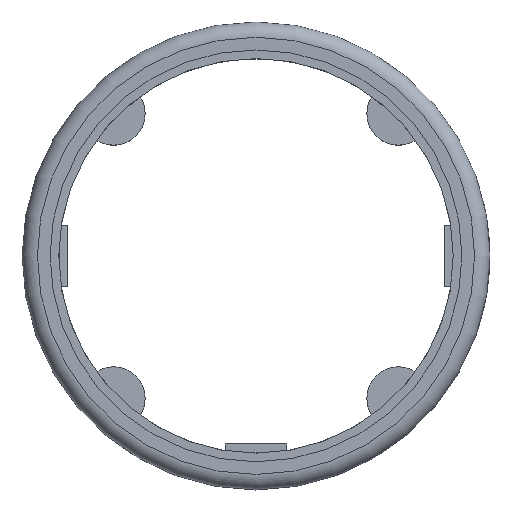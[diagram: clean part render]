
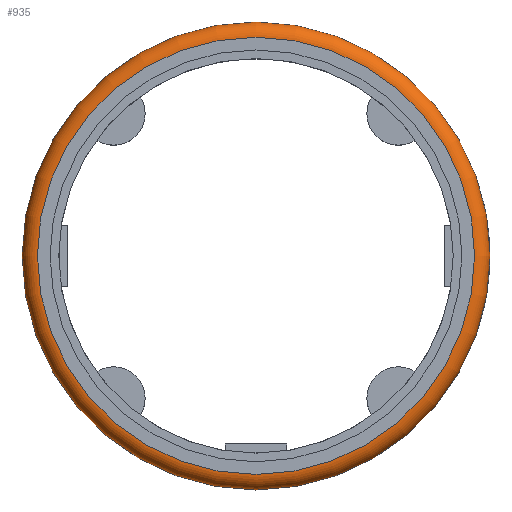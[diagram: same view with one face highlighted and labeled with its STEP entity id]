
A CAD part, top view. The second image highlights one B-rep face of the part: STEP entity #935.
In plain terms, the highlighted toroidal (fillet/blend) face has major radius 21.5 mm and minor radius 1.5 mm.
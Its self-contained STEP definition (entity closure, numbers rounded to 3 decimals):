
#31 = CYLINDRICAL_SURFACE('',#32,23.);
#32 = AXIS2_PLACEMENT_3D('',#33,#34,#35);
#33 = CARTESIAN_POINT('',(0.,0.,1.8));
#34 = DIRECTION('',(-0.,-0.,-1.));
#35 = DIRECTION('',(1.,0.,0.));
#167 = VERTEX_POINT('',#168);
#168 = CARTESIAN_POINT('',(23.,0.,17.7));
#189 = EDGE_CURVE('',#167,#167,#190,.T.);
#190 = SURFACE_CURVE('',#191,(#196,#203),.PCURVE_S1.);
#191 = CIRCLE('',#192,23.);
#192 = AXIS2_PLACEMENT_3D('',#193,#194,#195);
#193 = CARTESIAN_POINT('',(0.,0.,17.7));
#194 = DIRECTION('',(0.,0.,1.));
#195 = DIRECTION('',(1.,0.,-0.));
#196 = PCURVE('',#31,#197);
#197 = DEFINITIONAL_REPRESENTATION('',(#198),#202);
#198 = LINE('',#199,#200);
#199 = CARTESIAN_POINT('',(-0.,-15.9));
#200 = VECTOR('',#201,1.);
#201 = DIRECTION('',(-1.,0.));
#202 = ( GEOMETRIC_REPRESENTATION_CONTEXT(2) 
PARAMETRIC_REPRESENTATION_CONTEXT() REPRESENTATION_CONTEXT('2D SPACE',''
  ) );
#203 = PCURVE('',#204,#209);
#204 = TOROIDAL_SURFACE('',#205,21.5,1.5);
#205 = AXIS2_PLACEMENT_3D('',#206,#207,#208);
#206 = CARTESIAN_POINT('',(0.,0.,17.7));
#207 = DIRECTION('',(0.,0.,1.));
#208 = DIRECTION('',(1.,0.,-0.));
#209 = DEFINITIONAL_REPRESENTATION('',(#210),#214);
#210 = LINE('',#211,#212);
#211 = CARTESIAN_POINT('',(0.,0.));
#212 = VECTOR('',#213,1.);
#213 = DIRECTION('',(1.,0.));
#214 = ( GEOMETRIC_REPRESENTATION_CONTEXT(2) 
PARAMETRIC_REPRESENTATION_CONTEXT() REPRESENTATION_CONTEXT('2D SPACE',''
  ) );
#935 = ADVANCED_FACE('',(#936),#204,.T.);
#936 = FACE_BOUND('',#937,.T.);
#937 = EDGE_LOOP('',(#938,#960,#961,#962));
#938 = ORIENTED_EDGE('',*,*,#939,.F.);
#939 = EDGE_CURVE('',#167,#940,#942,.T.);
#940 = VERTEX_POINT('',#941);
#941 = CARTESIAN_POINT('',(21.5,0.,19.2));
#942 = SEAM_CURVE('',#943,(#948,#954),.PCURVE_S1.);
#943 = CIRCLE('',#944,1.5);
#944 = AXIS2_PLACEMENT_3D('',#945,#946,#947);
#945 = CARTESIAN_POINT('',(21.5,0.,17.7));
#946 = DIRECTION('',(0.,-1.,0.));
#947 = DIRECTION('',(1.,0.,0.));
#948 = PCURVE('',#204,#949);
#949 = DEFINITIONAL_REPRESENTATION('',(#950),#953);
#950 = B_SPLINE_CURVE_WITH_KNOTS('',1,(#951,#952),.UNSPECIFIED.,.F.,.F.,
  (2,2),(0.,1.571),.PIECEWISE_BEZIER_KNOTS.);
#951 = CARTESIAN_POINT('',(0.,0.));
#952 = CARTESIAN_POINT('',(0.,1.571));
#953 = ( GEOMETRIC_REPRESENTATION_CONTEXT(2) 
PARAMETRIC_REPRESENTATION_CONTEXT() REPRESENTATION_CONTEXT('2D SPACE',''
  ) );
#954 = PCURVE('',#204,#955);
#955 = DEFINITIONAL_REPRESENTATION('',(#956),#959);
#956 = B_SPLINE_CURVE_WITH_KNOTS('',1,(#957,#958),.UNSPECIFIED.,.F.,.F.,
  (2,2),(0.,1.571),.PIECEWISE_BEZIER_KNOTS.);
#957 = CARTESIAN_POINT('',(6.283,0.));
#958 = CARTESIAN_POINT('',(6.283,1.571));
#959 = ( GEOMETRIC_REPRESENTATION_CONTEXT(2) 
PARAMETRIC_REPRESENTATION_CONTEXT() REPRESENTATION_CONTEXT('2D SPACE',''
  ) );
#960 = ORIENTED_EDGE('',*,*,#189,.T.);
#961 = ORIENTED_EDGE('',*,*,#939,.T.);
#962 = ORIENTED_EDGE('',*,*,#963,.F.);
#963 = EDGE_CURVE('',#940,#940,#964,.T.);
#964 = SURFACE_CURVE('',#965,(#970,#977),.PCURVE_S1.);
#965 = CIRCLE('',#966,21.5);
#966 = AXIS2_PLACEMENT_3D('',#967,#968,#969);
#967 = CARTESIAN_POINT('',(0.,0.,19.2));
#968 = DIRECTION('',(0.,0.,1.));
#969 = DIRECTION('',(1.,0.,-0.));
#970 = PCURVE('',#204,#971);
#971 = DEFINITIONAL_REPRESENTATION('',(#972),#976);
#972 = LINE('',#973,#974);
#973 = CARTESIAN_POINT('',(0.,1.571));
#974 = VECTOR('',#975,1.);
#975 = DIRECTION('',(1.,0.));
#976 = ( GEOMETRIC_REPRESENTATION_CONTEXT(2) 
PARAMETRIC_REPRESENTATION_CONTEXT() REPRESENTATION_CONTEXT('2D SPACE',''
  ) );
#977 = PCURVE('',#978,#983);
#978 = PLANE('',#979);
#979 = AXIS2_PLACEMENT_3D('',#980,#981,#982);
#980 = CARTESIAN_POINT('',(0.,0.,19.2)
  );
#981 = DIRECTION('',(0.,0.,1.));
#982 = DIRECTION('',(1.,0.,-0.));
#983 = DEFINITIONAL_REPRESENTATION('',(#984),#988);
#984 = CIRCLE('',#985,21.5);
#985 = AXIS2_PLACEMENT_2D('',#986,#987);
#986 = CARTESIAN_POINT('',(0.,0.));
#987 = DIRECTION('',(1.,0.));
#988 = ( GEOMETRIC_REPRESENTATION_CONTEXT(2) 
PARAMETRIC_REPRESENTATION_CONTEXT() REPRESENTATION_CONTEXT('2D SPACE',''
  ) );
